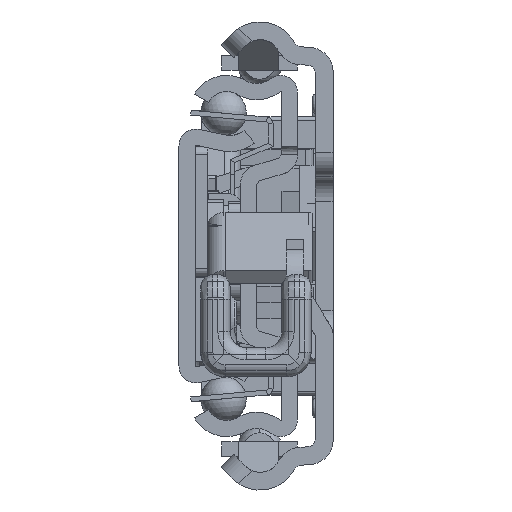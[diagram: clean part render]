
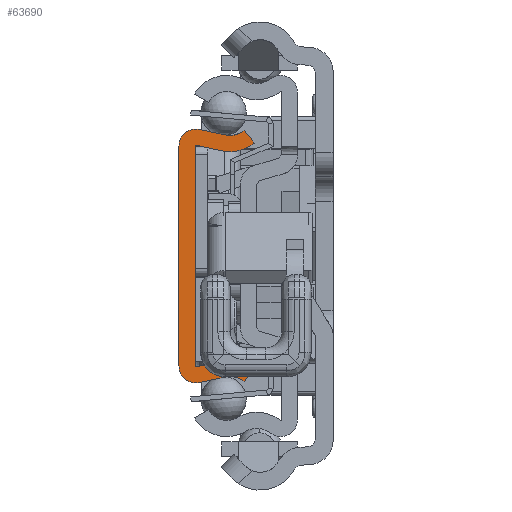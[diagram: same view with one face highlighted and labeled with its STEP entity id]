
A CAD part, left-side view. The second image highlights one B-rep face of the part: STEP entity #63690.
In plain terms, the highlighted planar face has unit normal (-1, 0, 0).
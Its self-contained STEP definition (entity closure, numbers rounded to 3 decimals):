
#58280=CARTESIAN_POINT('',(0.,-6.29,-17.65));
#58281=DIRECTION('',(-1.,0.,0.));
#58282=DIRECTION('',(0.,-0.629,0.778));
#58283=AXIS2_PLACEMENT_3D('',#58280,#58281,#58282);
#58285=DIRECTION('',(0.,0.977,-0.213));
#58286=VECTOR('',#58285,3.218);
#58287=CARTESIAN_POINT('',(0.,-5.692,-14.915));
#58288=LINE('',#58287,#58286);
#58289=CARTESIAN_POINT('',(0.,-2.1,-13.55));
#58290=DIRECTION('',(1.,0.,0.));
#58291=DIRECTION('',(0.,-0.213,-0.977));
#58292=AXIS2_PLACEMENT_3D('',#58289,#58290,#58291);
#58294=DIRECTION('',(0.,0.,1.));
#58295=VECTOR('',#58294,27.1);
#58296=CARTESIAN_POINT('',(0.,0.,-13.55));
#58297=LINE('',#58296,#58295);
#58298=CARTESIAN_POINT('',(0.,-2.1,13.55));
#58299=DIRECTION('',(1.,0.,0.));
#58300=DIRECTION('',(0.,1.,0.));
#58301=AXIS2_PLACEMENT_3D('',#58298,#58299,#58300);
#58303=DIRECTION('',(0.,-0.977,-0.213));
#58304=VECTOR('',#58303,3.218);
#58305=CARTESIAN_POINT('',(0.,-2.548,15.602));
#58306=LINE('',#58305,#58304);
#58307=CARTESIAN_POINT('',(0.,-6.29,17.65));
#58308=DIRECTION('',(-1.,0.,0.));
#58309=DIRECTION('',(0.,0.213,-0.977));
#58310=AXIS2_PLACEMENT_3D('',#58307,#58308,#58309);
#58312=DIRECTION('',(0.,-0.629,-0.778));
#58313=VECTOR('',#58312,2.);
#58314=CARTESIAN_POINT('',(0.,-8.05,15.472));
#58315=LINE('',#58314,#58313);
#58316=CARTESIAN_POINT('',(0.,-6.29,17.65));
#58317=DIRECTION('',(1.,0.,0.));
#58318=DIRECTION('',(0.,-0.629,-0.778));
#58319=AXIS2_PLACEMENT_3D('',#58316,#58317,#58318);
#58321=DIRECTION('',(0.,0.977,0.213));
#58322=VECTOR('',#58321,3.218);
#58323=CARTESIAN_POINT('',(0.,-5.265,12.961));
#58324=LINE('',#58323,#58322);
#58325=CARTESIAN_POINT('',(0.,-2.1,13.55));
#58326=DIRECTION('',(-1.,0.,0.));
#58327=DIRECTION('',(0.,-0.213,0.977));
#58328=AXIS2_PLACEMENT_3D('',#58325,#58326,#58327);
#58330=DIRECTION('',(0.,0.,-1.));
#58331=VECTOR('',#58330,27.1);
#58332=CARTESIAN_POINT('',(0.,-2.,13.55));
#58333=LINE('',#58332,#58331);
#58334=CARTESIAN_POINT('',(0.,-2.1,-13.55));
#58335=DIRECTION('',(-1.,0.,0.));
#58336=DIRECTION('',(0.,1.,0.));
#58337=AXIS2_PLACEMENT_3D('',#58334,#58335,#58336);
#58339=DIRECTION('',(0.,-0.977,0.213));
#58340=VECTOR('',#58339,3.218);
#58341=CARTESIAN_POINT('',(0.,-2.121,-13.648));
#58342=LINE('',#58341,#58340);
#58343=CARTESIAN_POINT('',(0.,-6.29,-17.65));
#58344=DIRECTION('',(1.,0.,0.));
#58345=DIRECTION('',(0.,0.213,0.977));
#58346=AXIS2_PLACEMENT_3D('',#58343,#58344,#58345);
#58348=DIRECTION('',(0.,0.629,-0.778));
#58349=VECTOR('',#58348,2.);
#58350=CARTESIAN_POINT('',(0.,-9.307,-13.917));
#58351=LINE('',#58350,#58349);
#62336=CARTESIAN_POINT('',(0.,-8.05,-15.472));
#62337=CARTESIAN_POINT('',(0.,-5.692,-14.915));
#62338=VERTEX_POINT('',#62336);
#62339=VERTEX_POINT('',#62337);
#62340=CARTESIAN_POINT('',(0.,-2.548,-15.602));
#62341=VERTEX_POINT('',#62340);
#62342=CARTESIAN_POINT('',(0.,0.,-13.55));
#62343=VERTEX_POINT('',#62342);
#62344=CARTESIAN_POINT('',(0.,0.,13.55));
#62345=VERTEX_POINT('',#62344);
#62346=CARTESIAN_POINT('',(0.,-2.548,15.602));
#62347=VERTEX_POINT('',#62346);
#62348=CARTESIAN_POINT('',(0.,-5.692,14.915));
#62349=VERTEX_POINT('',#62348);
#62350=CARTESIAN_POINT('',(0.,-8.05,15.472));
#62351=VERTEX_POINT('',#62350);
#62352=CARTESIAN_POINT('',(0.,-9.307,13.917));
#62353=VERTEX_POINT('',#62352);
#62354=CARTESIAN_POINT('',(0.,-5.265,12.961));
#62355=VERTEX_POINT('',#62354);
#62356=CARTESIAN_POINT('',(0.,-2.121,13.648));
#62357=VERTEX_POINT('',#62356);
#62358=CARTESIAN_POINT('',(0.,-2.,13.55));
#62359=VERTEX_POINT('',#62358);
#62360=CARTESIAN_POINT('',(0.,-2.,-13.55));
#62361=VERTEX_POINT('',#62360);
#62362=CARTESIAN_POINT('',(0.,-2.121,-13.648));
#62363=VERTEX_POINT('',#62362);
#62364=CARTESIAN_POINT('',(0.,-5.265,-12.961));
#62365=VERTEX_POINT('',#62364);
#62366=CARTESIAN_POINT('',(0.,-9.307,-13.917));
#62367=VERTEX_POINT('',#62366);
#63654=CARTESIAN_POINT('',(0.,0.,0.));
#63655=DIRECTION('',(1.,0.,0.));
#63656=DIRECTION('',(0.,-1.,0.));
#63657=AXIS2_PLACEMENT_3D('',#63654,#63655,#63656);
#63658=PLANE('',#63657);
#63659=ORIENTED_EDGE('',*,*,#63356,.T.);
#63660=ORIENTED_EDGE('',*,*,#63596,.T.);
#63662=ORIENTED_EDGE('',*,*,#63661,.T.);
#63664=ORIENTED_EDGE('',*,*,#63663,.T.);
#63666=ORIENTED_EDGE('',*,*,#63665,.T.);
#63668=ORIENTED_EDGE('',*,*,#63667,.T.);
#63670=ORIENTED_EDGE('',*,*,#63669,.T.);
#63672=ORIENTED_EDGE('',*,*,#63671,.T.);
#63674=ORIENTED_EDGE('',*,*,#63673,.T.);
#63676=ORIENTED_EDGE('',*,*,#63675,.T.);
#63678=ORIENTED_EDGE('',*,*,#63677,.T.);
#63680=ORIENTED_EDGE('',*,*,#63679,.T.);
#63682=ORIENTED_EDGE('',*,*,#63681,.T.);
#63684=ORIENTED_EDGE('',*,*,#63683,.T.);
#63686=ORIENTED_EDGE('',*,*,#63685,.T.);
#63687=ORIENTED_EDGE('',*,*,#63645,.T.);
#63688=EDGE_LOOP('',(#63659,#63660,#63662,#63664,#63666,#63668,#63670,#63672,
#63674,#63676,#63678,#63680,#63682,#63684,#63686,#63687));
#63689=FACE_OUTER_BOUND('',#63688,.F.);
#58284=CIRCLE('',#58283,2.8);
#58293=CIRCLE('',#58292,2.1);
#58302=CIRCLE('',#58301,2.1);
#58311=CIRCLE('',#58310,2.8);
#58320=CIRCLE('',#58319,4.8);
#58329=CIRCLE('',#58328,0.1);
#58338=CIRCLE('',#58337,0.1);
#58347=CIRCLE('',#58346,4.8);
#63356=EDGE_CURVE('',#62338,#62339,#58284,.T.);
#63596=EDGE_CURVE('',#62339,#62341,#58288,.T.);
#63645=EDGE_CURVE('',#62367,#62338,#58351,.T.);
#63661=EDGE_CURVE('',#62341,#62343,#58293,.T.);
#63663=EDGE_CURVE('',#62343,#62345,#58297,.T.);
#63665=EDGE_CURVE('',#62345,#62347,#58302,.T.);
#63667=EDGE_CURVE('',#62347,#62349,#58306,.T.);
#63669=EDGE_CURVE('',#62349,#62351,#58311,.T.);
#63671=EDGE_CURVE('',#62351,#62353,#58315,.T.);
#63673=EDGE_CURVE('',#62353,#62355,#58320,.T.);
#63675=EDGE_CURVE('',#62355,#62357,#58324,.T.);
#63677=EDGE_CURVE('',#62357,#62359,#58329,.T.);
#63679=EDGE_CURVE('',#62359,#62361,#58333,.T.);
#63681=EDGE_CURVE('',#62361,#62363,#58338,.T.);
#63683=EDGE_CURVE('',#62363,#62365,#58342,.T.);
#63685=EDGE_CURVE('',#62365,#62367,#58347,.T.);
#63690=ADVANCED_FACE('',(#63689),#63658,.F.);
